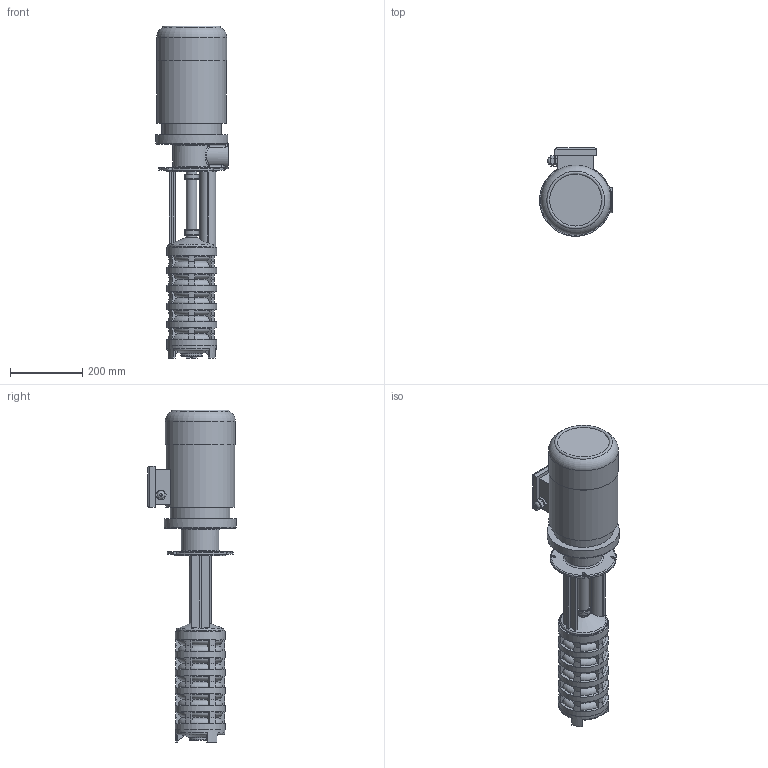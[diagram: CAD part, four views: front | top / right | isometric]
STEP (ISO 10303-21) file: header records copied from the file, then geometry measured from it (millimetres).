
FILE_DESCRIPTION(/* description */ ('Unknown'),/* implementation_level */ '2;1');
FILE_NAME(/* name */ 'gp6-520',/* time_stamp */ '2025-06-17T14:02:24+03:00',/* author */ ('Unknown'),/* organization */ ('Unknown'),/* preprocessor_version */ 'ST-DEVELOPER v16.7',/* originating_system */ 'DEX',/* authorisation */ $);
FILE_SCHEMA (('AUTOMOTIVE_DESIGN {1 0 10303 214 3 1 1}'));
Length unit declared in the file: millimetre
Products named in the file (1): gp6-520
Bounding box: 202 x 245.5 x 920.48 mm (x, y, z)
Volume: 15518285.7 mm3; surface area: 657753 mm2
Topology: 1 solids, 1 shells, 519 faces, 1394 edges, 908 vertices
Faces by surface type: plane 170, cylinder 101, cone 87, bspline 84, torus 77
Full cylindrical faces by diameter (mm): 17 x1, 21.5 x1, 29 x3, 33 x2, 35 x2, 39 x2, 40.5 x2, 45 x1, 47 x1, 60 x1, 137 x1, 139 x6, 140 x1, 165 x1, 192.353 x1, 194 x1, 200 x1
Entity records: 18825 total; most frequent: CARTESIAN_POINT 6351, ORIENTED_EDGE 2630, DIRECTION 2499, EDGE_CURVE 1315, AXIS2_PLACEMENT_3D 955, VERTEX_POINT 889, EDGE_LOOP 614, FACE_BOUND 614
